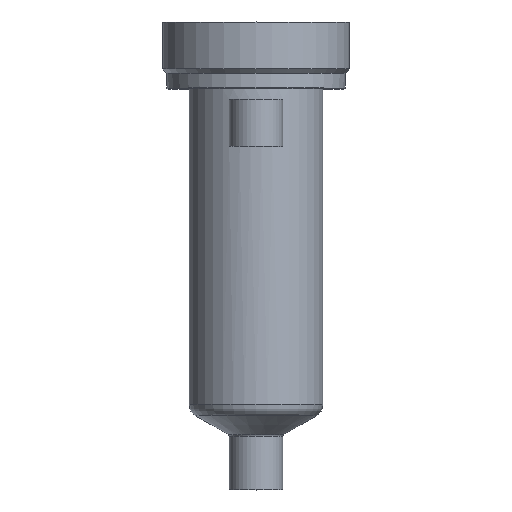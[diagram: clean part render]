
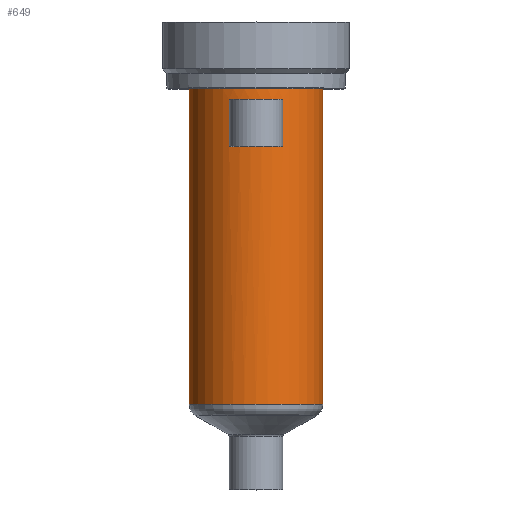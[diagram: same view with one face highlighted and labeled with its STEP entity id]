
A CAD part, top view. The second image highlights one B-rep face of the part: STEP entity #649.
In plain terms, the highlighted cylindrical face has radius 15 mm (diameter 30 mm), a partial arc.
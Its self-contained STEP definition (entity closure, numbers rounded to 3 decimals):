
#161=DIRECTION('',(0.,-1.,0.));
#162=VECTOR('',#161,70.783);
#163=CARTESIAN_POINT('',(15.,0.,0.));
#164=LINE('',#163,#162);
#165=CARTESIAN_POINT('',(0.,-70.783,0.));
#166=DIRECTION('',(0.,1.,0.));
#167=DIRECTION('',(-1.,0.,0.));
#168=AXIS2_PLACEMENT_3D('',#165,#166,#167);
#170=DIRECTION('',(0.,1.,0.));
#171=VECTOR('',#170,70.783);
#172=CARTESIAN_POINT('',(-15.,-70.783,0.));
#173=LINE('',#172,#171);
#174=CARTESIAN_POINT('',(0.,0.,0.));
#175=DIRECTION('',(0.,1.,0.));
#176=DIRECTION('',(-1.,0.,0.));
#177=AXIS2_PLACEMENT_3D('',#174,#175,#176);
#255=DIRECTION('',(0.,-1.,0.));
#256=VECTOR('',#255,10.5);
#257=CARTESIAN_POINT('',(-6.,-2.5,13.748));
#258=LINE('',#257,#256);
#263=CARTESIAN_POINT('',(0.,-13.,0.));
#264=DIRECTION('',(0.,1.,0.));
#265=DIRECTION('',(-0.4,0.,0.917));
#266=AXIS2_PLACEMENT_3D('',#263,#264,#265);
#298=CARTESIAN_POINT('',(0.,-2.5,0.));
#299=DIRECTION('',(0.,-1.,0.));
#300=DIRECTION('',(0.4,0.,0.917));
#301=AXIS2_PLACEMENT_3D('',#298,#299,#300);
#303=DIRECTION('',(0.,-1.,0.));
#304=VECTOR('',#303,10.5);
#305=CARTESIAN_POINT('',(6.,-2.5,13.748));
#306=LINE('',#305,#304);
#390=CARTESIAN_POINT('',(-15.,0.,0.));
#391=CARTESIAN_POINT('',(15.,0.,0.));
#392=VERTEX_POINT('',#390);
#393=VERTEX_POINT('',#391);
#402=CARTESIAN_POINT('',(6.,-2.5,13.748));
#403=VERTEX_POINT('',#402);
#404=CARTESIAN_POINT('',(-6.,-2.5,13.748));
#405=VERTEX_POINT('',#404);
#414=CARTESIAN_POINT('',(15.,-70.783,0.));
#415=VERTEX_POINT('',#414);
#424=CARTESIAN_POINT('',(-15.,-70.783,0.));
#425=VERTEX_POINT('',#424);
#426=CARTESIAN_POINT('',(-6.,-13.,13.748));
#427=CARTESIAN_POINT('',(6.,-13.,13.748));
#428=VERTEX_POINT('',#426);
#429=VERTEX_POINT('',#427);
#627=CARTESIAN_POINT('',(0.,16.4,0.));
#628=DIRECTION('',(0.,-1.,0.));
#629=DIRECTION('',(-1.,0.,0.));
#630=AXIS2_PLACEMENT_3D('',#627,#628,#629);
#631=CYLINDRICAL_SURFACE('',#630,15.);
#632=ORIENTED_EDGE('',*,*,#621,.T.);
#634=ORIENTED_EDGE('',*,*,#633,.F.);
#635=ORIENTED_EDGE('',*,*,#617,.T.);
#636=ORIENTED_EDGE('',*,*,#607,.T.);
#637=EDGE_LOOP('',(#632,#634,#635,#636));
#638=FACE_OUTER_BOUND('',#637,.F.);
#640=ORIENTED_EDGE('',*,*,#639,.T.);
#642=ORIENTED_EDGE('',*,*,#641,.T.);
#644=ORIENTED_EDGE('',*,*,#643,.F.);
#646=ORIENTED_EDGE('',*,*,#645,.T.);
#647=EDGE_LOOP('',(#640,#642,#644,#646));
#648=FACE_BOUND('',#647,.F.);
#649=ADVANCED_FACE('',(#638,#648),#631,.T.);
#169=CIRCLE('',#168,15.);
#178=CIRCLE('',#177,15.);
#267=CIRCLE('',#266,15.);
#302=CIRCLE('',#301,15.);
#607=EDGE_CURVE('',#392,#393,#178,.T.);
#617=EDGE_CURVE('',#425,#392,#173,.T.);
#621=EDGE_CURVE('',#393,#415,#164,.T.);
#633=EDGE_CURVE('',#425,#415,#169,.T.);
#639=EDGE_CURVE('',#405,#428,#258,.T.);
#641=EDGE_CURVE('',#428,#429,#267,.T.);
#643=EDGE_CURVE('',#403,#429,#306,.T.);
#645=EDGE_CURVE('',#403,#405,#302,.T.);
